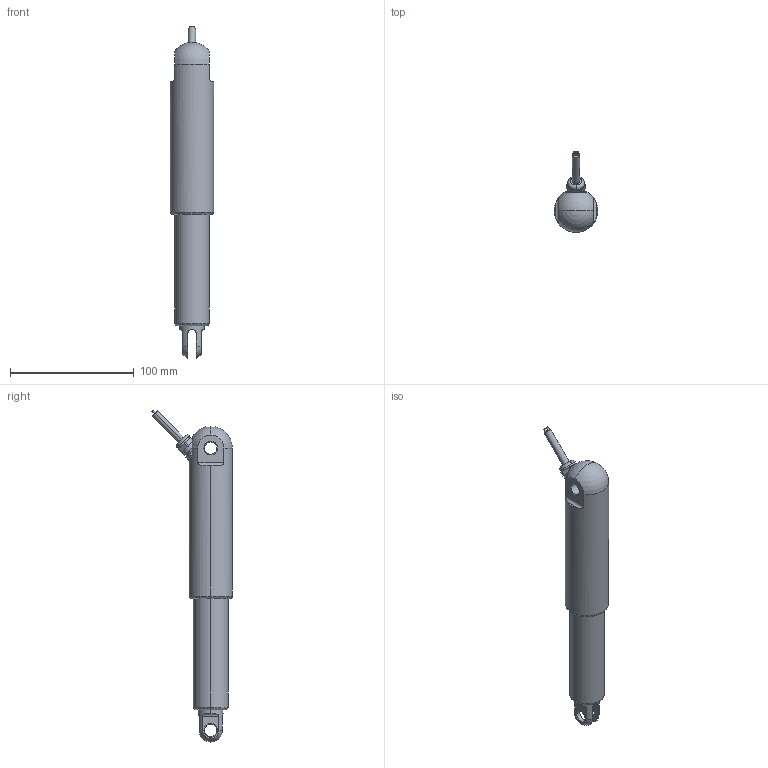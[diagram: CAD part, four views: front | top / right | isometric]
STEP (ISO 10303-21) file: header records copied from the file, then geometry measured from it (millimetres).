
FILE_DESCRIPTION((''),'2;1');
FILE_NAME('ST35-50MM-178','2016-12-15T',('Aklek'),(''),'PRO/ENGINEER BY PARAMETRIC TECHNOLOGY CORPORATION, 2010100','PRO/ENGINEER BY PARAMETRIC TECHNOLOGY CORPORATION, 2010100','');
FILE_SCHEMA(('CONFIG_CONTROL_DESIGN'));
Length unit declared in the file: millimetre
Products named in the file (1): ST35-50MM-178
Bounding box: 35 x 65.28 x 268.2 mm (x, y, z)
Volume: 184117.4 mm3; surface area: 27955.1 mm2
Topology: 1 solids, 1 shells, 111 faces, 273 edges, 171 vertices
Faces by surface type: cylinder 47, plane 35, torus 10, cone 8, bspline 7, sphere 4
Entity records: 3729 total; most frequent: CARTESIAN_POINT 1026, DIRECTION 584, ORIENTED_EDGE 542, EDGE_CURVE 271, AXIS2_PLACEMENT_3D 236, VERTEX_POINT 171, CIRCLE 132, EDGE_LOOP 126
